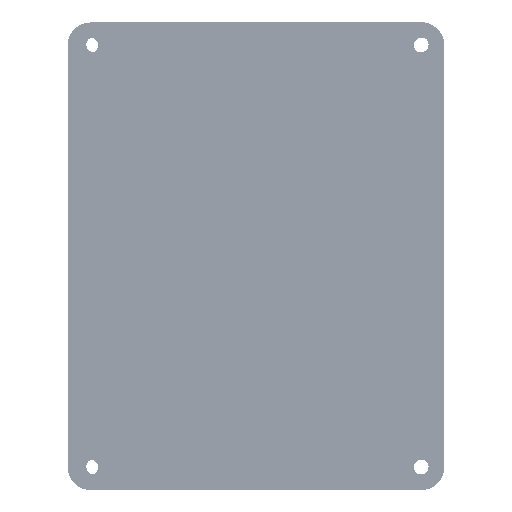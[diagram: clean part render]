
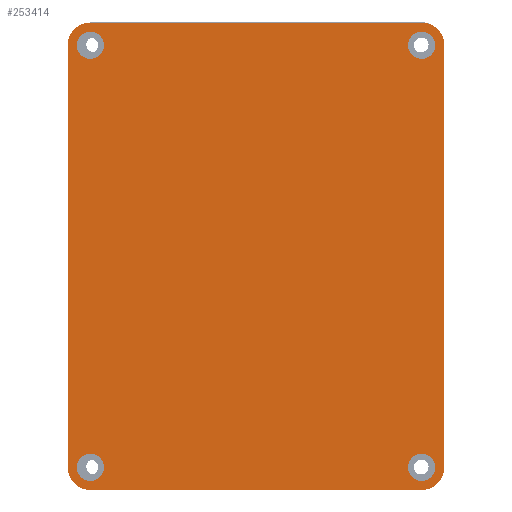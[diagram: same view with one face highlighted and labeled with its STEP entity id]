
A CAD part, front view. The second image highlights one B-rep face of the part: STEP entity #253414.
In plain terms, the highlighted planar face has unit normal (0, -1, 0).
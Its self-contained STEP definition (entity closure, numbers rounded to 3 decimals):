
#14381=CIRCLE('',#271448,5.);
#14389=CIRCLE('',#271459,5.);
#14390=CIRCLE('',#271461,5.);
#14391=CIRCLE('',#271464,5.);
#14393=CIRCLE('',#271473,3.);
#14396=CIRCLE('',#271478,3.);
#14399=CIRCLE('',#271483,3.);
#14402=CIRCLE('',#271488,3.);
#25668=FACE_BOUND('',#51984,.T.);
#25669=FACE_BOUND('',#51985,.T.);
#25670=FACE_BOUND('',#51986,.T.);
#25671=FACE_BOUND('',#51987,.T.);
#27849=PLANE('',#271495);
#35510=FACE_OUTER_BOUND('',#51983,.T.);
#51983=EDGE_LOOP('',(#191494,#191495,#191496,#191497,#191498,#191499,#191500,
#191501));
#51984=EDGE_LOOP('',(#191502));
#51985=EDGE_LOOP('',(#191503));
#51986=EDGE_LOOP('',(#191504));
#51987=EDGE_LOOP('',(#191505));
#70827=LINE('',#420664,#92346);
#70835=LINE('',#420683,#92354);
#70859=LINE('',#420757,#92378);
#70860=LINE('',#420759,#92379);
#92346=VECTOR('',#312287,10.);
#92354=VECTOR('',#312305,10.);
#92378=VECTOR('',#312391,10.);
#92379=VECTOR('',#312394,10.);
#116352=VERTEX_POINT('',#420619);
#116353=VERTEX_POINT('',#420621);
#116372=VERTEX_POINT('',#420663);
#116375=VERTEX_POINT('',#420672);
#116376=VERTEX_POINT('',#420676);
#116377=VERTEX_POINT('',#420678);
#116378=VERTEX_POINT('',#420682);
#116379=VERTEX_POINT('',#420686);
#116387=VERTEX_POINT('',#420716);
#116390=VERTEX_POINT('',#420726);
#116393=VERTEX_POINT('',#420736);
#116396=VERTEX_POINT('',#420746);
#142900=EDGE_CURVE('',#116352,#116353,#14381,.T.);
#142921=EDGE_CURVE('',#116372,#116353,#70827,.T.);
#142926=EDGE_CURVE('',#116372,#116375,#14389,.T.);
#142929=EDGE_CURVE('',#116376,#116377,#14390,.T.);
#142931=EDGE_CURVE('',#116378,#116377,#70835,.T.);
#142933=EDGE_CURVE('',#116378,#116379,#14391,.T.);
#142949=EDGE_CURVE('',#116387,#116387,#14393,.T.);
#142954=EDGE_CURVE('',#116390,#116390,#14396,.T.);
#142959=EDGE_CURVE('',#116393,#116393,#14399,.T.);
#142964=EDGE_CURVE('',#116396,#116396,#14402,.T.);
#142968=EDGE_CURVE('',#116376,#116375,#70859,.T.);
#142969=EDGE_CURVE('',#116352,#116379,#70860,.T.);
#191494=ORIENTED_EDGE('',*,*,#142900,.F.);
#191495=ORIENTED_EDGE('',*,*,#142969,.T.);
#191496=ORIENTED_EDGE('',*,*,#142933,.F.);
#191497=ORIENTED_EDGE('',*,*,#142931,.T.);
#191498=ORIENTED_EDGE('',*,*,#142929,.F.);
#191499=ORIENTED_EDGE('',*,*,#142968,.T.);
#191500=ORIENTED_EDGE('',*,*,#142926,.F.);
#191501=ORIENTED_EDGE('',*,*,#142921,.T.);
#191502=ORIENTED_EDGE('',*,*,#142959,.F.);
#191503=ORIENTED_EDGE('',*,*,#142954,.F.);
#191504=ORIENTED_EDGE('',*,*,#142964,.F.);
#191505=ORIENTED_EDGE('',*,*,#142949,.F.);
#253414=ADVANCED_FACE('',(#35510,#25668,#25669,#25670,#25671),#27849,.F.);
#271448=AXIS2_PLACEMENT_3D('',#420622,#312254,#312255);
#271459=AXIS2_PLACEMENT_3D('',#420673,#312294,#312295);
#271461=AXIS2_PLACEMENT_3D('',#420679,#312300,#312301);
#271464=AXIS2_PLACEMENT_3D('',#420687,#312309,#312310);
#271473=AXIS2_PLACEMENT_3D('',#420718,#312341,#312342);
#271478=AXIS2_PLACEMENT_3D('',#420728,#312353,#312354);
#271483=AXIS2_PLACEMENT_3D('',#420738,#312365,#312366);
#271488=AXIS2_PLACEMENT_3D('',#420748,#312377,#312378);
#271495=AXIS2_PLACEMENT_3D('',#420760,#312395,#312396);
#312254=DIRECTION('center_axis',(0.,1.,0.));
#312255=DIRECTION('ref_axis',(0.707,0.,-0.707));
#312287=DIRECTION('',(1.,0.,0.));
#312294=DIRECTION('center_axis',(0.,1.,0.));
#312295=DIRECTION('ref_axis',(-0.707,0.,-0.707));
#312300=DIRECTION('center_axis',(0.,1.,0.));
#312301=DIRECTION('ref_axis',(-0.707,0.,0.707));
#312305=DIRECTION('',(-1.,0.,0.));
#312309=DIRECTION('center_axis',(0.,1.,0.));
#312310=DIRECTION('ref_axis',(0.707,0.,0.707));
#312341=DIRECTION('center_axis',(0.,-1.,0.));
#312342=DIRECTION('ref_axis',(1.,0.,0.));
#312353=DIRECTION('center_axis',(0.,-1.,0.));
#312354=DIRECTION('ref_axis',(1.,0.,0.));
#312365=DIRECTION('center_axis',(0.,-1.,0.));
#312366=DIRECTION('ref_axis',(1.,0.,0.));
#312377=DIRECTION('center_axis',(0.,-1.,0.));
#312378=DIRECTION('ref_axis',(1.,0.,0.));
#312391=DIRECTION('',(0.,0.,-1.));
#312394=DIRECTION('',(0.,0.,1.));
#312395=DIRECTION('center_axis',(0.,1.,0.));
#312396=DIRECTION('ref_axis',(1.,0.,0.));
#420619=CARTESIAN_POINT('',(22.5,0.,-64.5));
#420621=CARTESIAN_POINT('',(17.5,0.,-69.5));
#420622=CARTESIAN_POINT('Origin',(17.5,0.,-64.5));
#420663=CARTESIAN_POINT('',(-55.5,0.,-69.5));
#420664=CARTESIAN_POINT('',(-60.5,0.,-69.5));
#420672=CARTESIAN_POINT('',(-60.5,0.,-64.5));
#420673=CARTESIAN_POINT('Origin',(-55.5,0.,-64.5));
#420676=CARTESIAN_POINT('',(-60.5,0.,28.5));
#420678=CARTESIAN_POINT('',(-55.5,0.,33.5));
#420679=CARTESIAN_POINT('Origin',(-55.5,0.,28.5));
#420682=CARTESIAN_POINT('',(17.5,0.,33.5));
#420683=CARTESIAN_POINT('',(22.5,0.,33.5));
#420686=CARTESIAN_POINT('',(22.5,0.,28.5));
#420687=CARTESIAN_POINT('Origin',(17.5,0.,28.5));
#420716=CARTESIAN_POINT('',(14.5,0.,28.5));
#420718=CARTESIAN_POINT('Origin',(17.5,0.,28.5));
#420726=CARTESIAN_POINT('',(-58.5,0.,28.5));
#420728=CARTESIAN_POINT('Origin',(-55.5,0.,28.5));
#420736=CARTESIAN_POINT('',(-58.5,0.,-64.5));
#420738=CARTESIAN_POINT('Origin',(-55.5,0.,-64.5));
#420746=CARTESIAN_POINT('',(14.5,0.,-64.5));
#420748=CARTESIAN_POINT('Origin',(17.5,0.,-64.5));
#420757=CARTESIAN_POINT('',(-60.5,0.,33.5));
#420759=CARTESIAN_POINT('',(22.5,0.,-69.5));
#420760=CARTESIAN_POINT('Origin',(-19.,0.,-18.));
